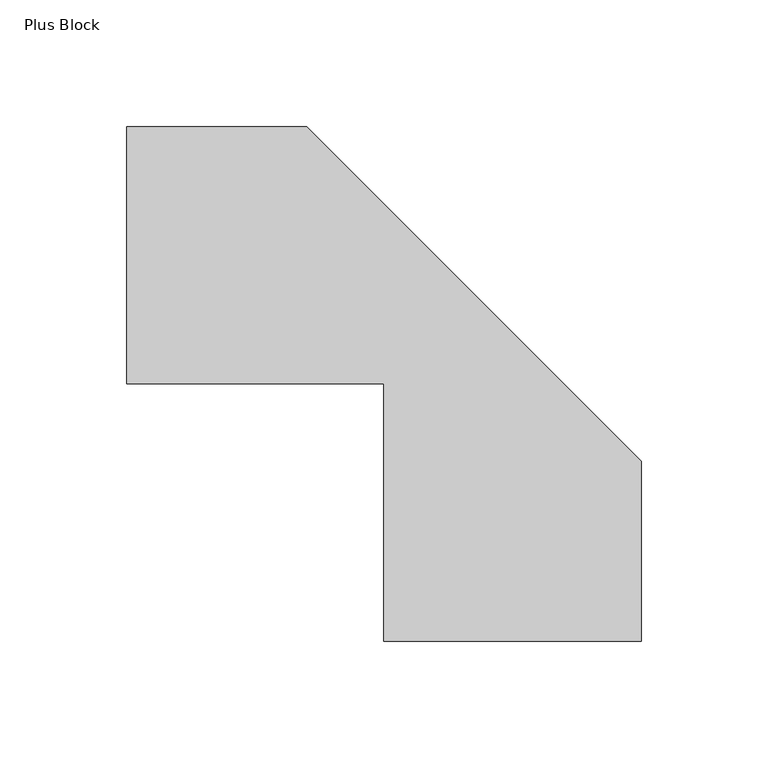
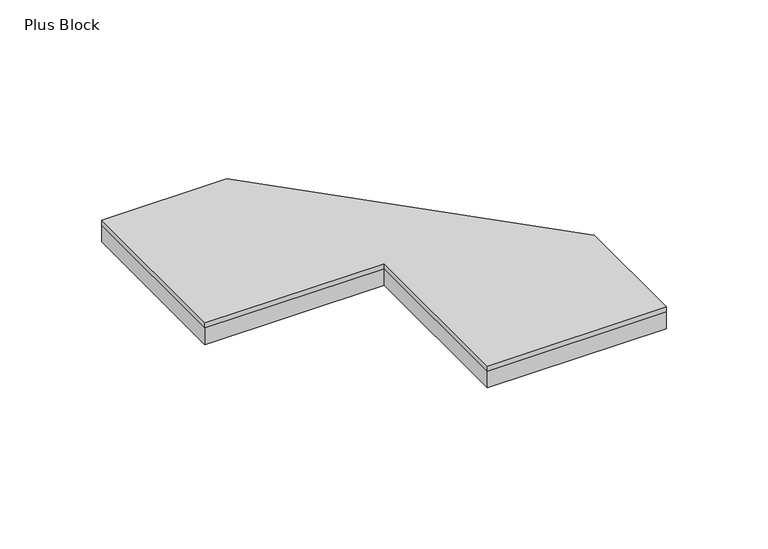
"""IFC4 building model written with IfcOpenShell, lengths in millimetres: proxy geometry, FilzFelt_Plus_Block : Plus Block."""

import ifcopenshell
import ifcopenshell.guid

model = None  # the IFC model being written
_history = None  # IfcOwnerHistory: only IFC2X3 demands one
_inside = {}  # id of a spatial element -> (the spatial element, [elements in it])
_under = {}  # id of a project, library or spatial element -> (it, [spatial elements below it])
_declared = {}  # id of a project -> (the project, [libraries it declares])
_typed = {}  # id of a type object -> (the type object, [elements of that type])
_made_of = {}  # id of a material, layer set ... -> (it, [elements and type objects made of it])


def new_model(schema):
    """Start an empty IFC model of exactly this schema.

    Asked for "IFC4X3", IfcOpenShell would pick the latest addendum, in which some entities
    have other attributes; the version numbers below select the first issue.
    IFC2X3 requires an IfcOwnerHistory on every rooted entity: one is made here for all.
    """
    global model, _history
    if schema == "IFC4X3":
        model = ifcopenshell.file(schema_version=(4, 3, 0, 0))
    else:
        model = ifcopenshell.file(schema=schema)
    _inside.clear()
    _under.clear()
    _declared.clear()
    _typed.clear()
    _made_of.clear()
    _history = None
    if model.schema == "IFC2X3":
        org = make("IfcOrganization", Name="unknown")
        user = make(
            "IfcPersonAndOrganization",
            ThePerson=make("IfcPerson", FamilyName="unknown"),
            TheOrganization=org,
        )
        app = make(
            "IfcApplication",
            ApplicationDeveloper=org,
            Version="unknown",
            ApplicationFullName="unknown",
            ApplicationIdentifier="unknown",
        )
        _history = make(
            "IfcOwnerHistory",
            OwningUser=user,
            OwningApplication=app,
            ChangeAction="ADDED",
            CreationDate=0,
        )
    return model


def make(cls, **values):
    """One entity of the class cls with the attributes given. An attribute that is None is left unset."""
    return model.create_entity(
        cls, **{name: value for name, value in values.items() if value is not None}
    )


def rooted(cls, **values):
    """An entity with a GlobalId (a new one), such as an element, a storey or a relation."""
    return make(cls, GlobalId=ifcopenshell.guid.new(), OwnerHistory=_history, **values)


def si_unit(unit_type, name, prefix=None):
    """IfcSIUnit, for example si_unit("LENGTHUNIT", "METRE", prefix="MILLI")."""
    return make("IfcSIUnit", UnitType=unit_type, Prefix=prefix, Name=name)


def assignment(units):
    """IfcUnitAssignment: the units of a project."""
    return None if units is None else make("IfcUnitAssignment", Units=units)


def point(xyz):
    """IfcCartesianPoint."""
    return None if xyz is None else make("IfcCartesianPoint", Coordinates=xyz)


def direction(xyz):
    """IfcDirection."""
    return None if xyz is None else make("IfcDirection", DirectionRatios=xyz)


def frame(location, z_axis=None, x_axis=None):
    """IfcAxis2Placement3D, a coordinate frame: its origin and axes. An axis left out is left unset."""
    return make(
        "IfcAxis2Placement3D",
        Location=point(location),
        Axis=direction(z_axis),
        RefDirection=direction(x_axis),
    )


def origin():
    """The frame at (0, 0, 0) with its axes left unset."""
    return frame((0.0, 0.0, 0.0))


def origin_with_axes():
    """The frame at (0, 0, 0) with the z axis (0, 0, 1) and the x axis (1, 0, 0) written out."""
    return frame((0.0, 0.0, 0.0), z_axis=(0.0, 0.0, 1.0), x_axis=(1.0, 0.0, 0.0))


def place(relative_to, where):
    """IfcLocalPlacement: puts the frame where relative to a parent placement (None: the world)."""
    return make(
        "IfcLocalPlacement", PlacementRelTo=relative_to, RelativePlacement=where
    )


def context(
    kind, dimensions, precision=None, world=None, true_north=None, identifier=None
):
    """IfcGeometricRepresentationContext, for example the 3D "Model" context."""
    return make(
        "IfcGeometricRepresentationContext",
        ContextIdentifier=identifier,
        ContextType=kind,
        CoordinateSpaceDimension=dimensions,
        Precision=precision,
        WorldCoordinateSystem=world,
        TrueNorth=true_north,
    )


def project(units=None, contexts=None):
    """IfcProject with its units and contexts."""
    return rooted(
        "IfcProject",
        Name="project",
        RepresentationContexts=contexts,
        UnitsInContext=assignment(units),
    )


def spatial(cls, under=None, at=None, **own):
    """A site, building, storey or space (cls), placed at a placement, below another one or the project."""
    s = rooted(cls, ObjectPlacement=at, **own)
    if under is not None:
        _under.setdefault(under.id(), (under, []))[1].append(s)
    return s


def polyline(points):
    """IfcPolyline through the points."""
    return make("IfcPolyline", Points=[point(p) for p in points])


def outline(outer, holes=None, kind="AREA"):
    """IfcArbitraryClosedProfileDef: a profile drawn as a closed curve; with holes, ...WithVoids."""
    if holes is None:
        return make("IfcArbitraryClosedProfileDef", ProfileType=kind, OuterCurve=outer)
    return make(
        "IfcArbitraryProfileDefWithVoids",
        ProfileType=kind,
        OuterCurve=outer,
        InnerCurves=holes,
    )


def extrude(swept, where, along, depth):
    """IfcExtrudedAreaSolid: the profile swept, set in the frame where, extruded along a direction by depth."""
    return make(
        "IfcExtrudedAreaSolid",
        SweptArea=swept,
        Position=where,
        ExtrudedDirection=direction(along),
        Depth=depth,
    )


def shape(context_of_items, identifier, shape_type, items):
    """IfcShapeRepresentation: the items that make up one representation, for example the "Body"."""
    return make(
        "IfcShapeRepresentation",
        ContextOfItems=context_of_items,
        RepresentationIdentifier=identifier,
        RepresentationType=shape_type,
        Items=items,
    )


def source(mapping_origin, context_of_items, identifier, shape_type, items):
    """IfcRepresentationMap: a shape defined once, which mapped items show again and again."""
    return make(
        "IfcRepresentationMap",
        MappingOrigin=mapping_origin,
        MappedRepresentation=shape(context_of_items, identifier, shape_type, items),
    )


def transform(
    local_origin,
    x_axis=None,
    y_axis=None,
    z_axis=None,
    scale=None,
    scale2=None,
    scale3=None,
    uniform=True,
):
    """IfcCartesianTransformationOperator3D, or its non-uniform kind. x_axis, y_axis, z_axis: its Axis1, 2, 3."""
    if uniform:
        return make(
            "IfcCartesianTransformationOperator3D",
            Axis1=direction(x_axis),
            Axis2=direction(y_axis),
            LocalOrigin=point(local_origin),
            Scale=scale,
            Axis3=direction(z_axis),
        )
    return make(
        "IfcCartesianTransformationOperator3DnonUniform",
        Axis1=direction(x_axis),
        Axis2=direction(y_axis),
        LocalOrigin=point(local_origin),
        Scale=scale,
        Axis3=direction(z_axis),
        Scale2=scale2,
        Scale3=scale3,
    )


def mapped(mapping_source, mapping_target):
    """IfcMappedItem: shows the shape of a source again, moved by a transform."""
    return make(
        "IfcMappedItem", MappingSource=mapping_source, MappingTarget=mapping_target
    )


def made_of(thing, what):
    """Note that an element or type object is made of a material, layer set ...; save() writes the relation."""
    if what is not None:
        _made_of.setdefault(what.id(), (what, []))[1].append(thing)
    return thing


def element(
    cls,
    number,
    at=None,
    inside=None,
    cuts=None,
    type_object=None,
    material=None,
    context=None,
    identifier="Body",
    shape_type=None,
    held_by="IfcProductDefinitionShape",
    body=None,
    shapes=None,
    **own,
):
    """One element of the class cls, such as IfcWall. Its Tag is "e" and its number.

    at: its placement. inside: the storey or other place that contains it. cuts: it is an
    opening in that element (IfcRelVoidsElement). A single representation is given by context,
    identifier, shape_type and body (its items); several are given by shapes. held_by: the class
    of the entity that holds the representations. save() writes the other relations.
    """
    e = rooted(cls, Tag="e%d" % number, ObjectPlacement=at, **own)
    if body is not None:
        shapes = [shape(context, identifier, shape_type, body)]
    if shapes is not None:
        e.Representation = make(held_by, Representations=shapes)
    if inside is not None:
        _inside.setdefault(inside.id(), (inside, []))[1].append(e)
    if cuts is not None:
        rooted(
            "IfcRelVoidsElement", RelatingBuildingElement=cuts, RelatedOpeningElement=e
        )
    if type_object is not None:
        _typed.setdefault(type_object.id(), (type_object, []))[1].append(e)
    return made_of(e, material)


def aggregate(whole, parts):
    """IfcRelAggregates: a whole, such as a stair, and the parts it consists of."""
    return rooted("IfcRelAggregates", RelatingObject=whole, RelatedObjects=parts)


def save(model, path):
    """Write the relations noted so far, then the file.

    IfcRelAggregates (storeys below a building ...), IfcRelContainedInSpatialStructure (elements
    in a storey), IfcRelDefinesByType, IfcRelAssociatesMaterial and IfcRelDeclares: one each for
    every whole, place, type object, material and project.
    """
    for whole, parts in _under.values():
        aggregate(whole, parts)
    for where, things in _inside.values():
        rooted(
            "IfcRelContainedInSpatialStructure",
            RelatedElements=things,
            RelatingStructure=where,
        )
    for kind, things in _typed.values():
        rooted("IfcRelDefinesByType", RelatedObjects=things, RelatingType=kind)
    for what, things in _made_of.values():
        rooted("IfcRelAssociatesMaterial", RelatedObjects=things, RelatingMaterial=what)
    for by, libraries in _declared.values():
        rooted("IfcRelDeclares", RelatingContext=by, RelatedDefinitions=libraries)
    model.write(path)


def plus_block_94719e22(model_context):
    return source(origin(), model_context, "Body", "SweptSolid", [
        extrude(outline(polyline([(50.8333333, -152.5), (-50.8333333, -152.5), (-50.8333333, -50.8333333), (-152.5, -50.8333333), (-152.5, 50.8333333), (-81.4146673, 50.8333333), (50.8333333, -81.4146673), (50.8333333, -152.5)])), frame((0.0, 0.0, 10.0210937), z_axis=(0.0, 0.0, 1.0), x_axis=(1.0, 0.0, 0.0)), (0.0, 0.0, 1.0), 2.9765625),
        extrude(outline(polyline([(-152.5, -50.8333333), (-152.5, 50.8333333), (-81.4146673, 50.8333333), (50.8333333, -81.4146673), (50.8333333, -152.5), (-50.8333333, -152.5), (-50.8333333, -50.8333333), (-152.5, -50.8333333)])), origin_with_axes(), (0.0, 0.0, 1.0), 10.0210938),
    ])


if __name__ == "__main__":
    model = new_model("IFC4")
    model_context = context("Model", 3, world=origin())
    ifc_project = project(units=[si_unit("LENGTHUNIT", "METRE", prefix="MILLI")], contexts=[model_context])
    site = spatial("IfcSite", under=ifc_project)
    building = spatial("IfcBuilding", under=site)
    placement = place(None, origin())
    plus_block_shape = plus_block_94719e22(model_context)
    element("IfcBuildingElementProxy", 1, Name="FilzFelt_Plus_Block : Plus Block", ObjectType="FilzFelt_Plus_Block : Plus Block", at=placement, inside=building, context=model_context, shape_type="MappedRepresentation", body=[
        mapped(plus_block_shape, transform((0.0, 0.0, 0.0), x_axis=(1.0, 0.0, 0.0), y_axis=(0.0, 1.0, 0.0), z_axis=(0.0, 0.0, 1.0))),
    ])
    save(model, "model.ifc")
